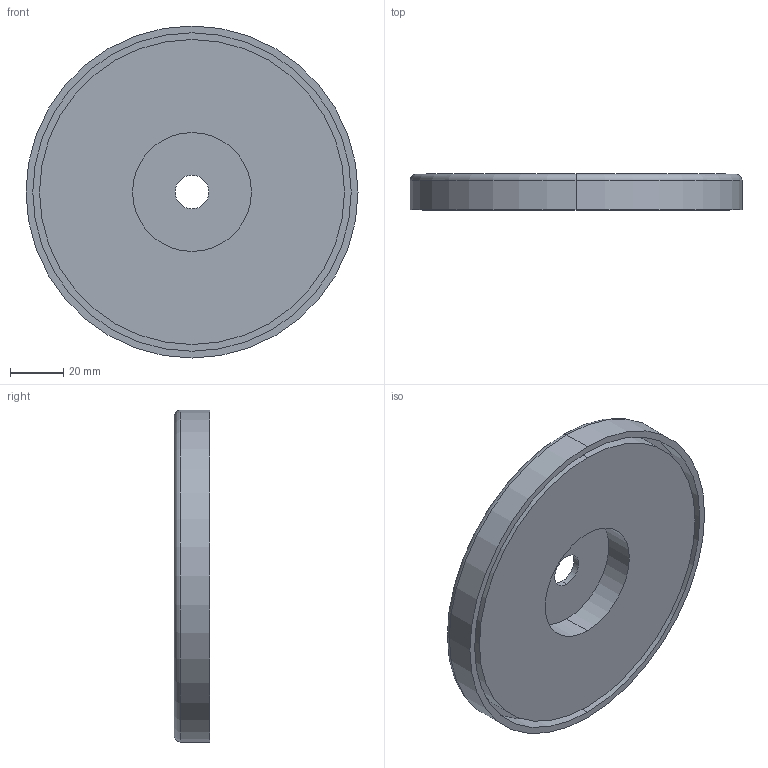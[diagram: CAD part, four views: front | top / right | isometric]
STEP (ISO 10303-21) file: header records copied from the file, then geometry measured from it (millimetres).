
FILE_DESCRIPTION (( 'STEP AP203' ), '1' );
FILE_NAME ('LED-10W-6R-HT-109 Step.STEP', '2013-10-24T16:09:55', ( 'Rob' ), ( '' ), 'SwSTEP 2.0', 'SolidWorks 2013', '' );
FILE_SCHEMA (( 'CONFIG_CONTROL_DESIGN' ));
Length unit declared in the file: inch
Products named in the file (1): LED-10W-6R-HT-109 Step
Bounding box: 124.84 x 13.46 x 124.84 mm (x, y, z)
Volume: 139653.2 mm3; surface area: 36324.8 mm2
Topology: 1 solids, 1 shells, 17 faces, 34 edges, 22 vertices
Faces by surface type: cylinder 10, plane 5, torus 2
Entity records: 539 total; most frequent: DIRECTION 94, CARTESIAN_POINT 74, ORIENTED_EDGE 68, AXIS2_PLACEMENT_3D 42, EDGE_CURVE 34, CIRCLE 24, EDGE_LOOP 22, VERTEX_POINT 22
